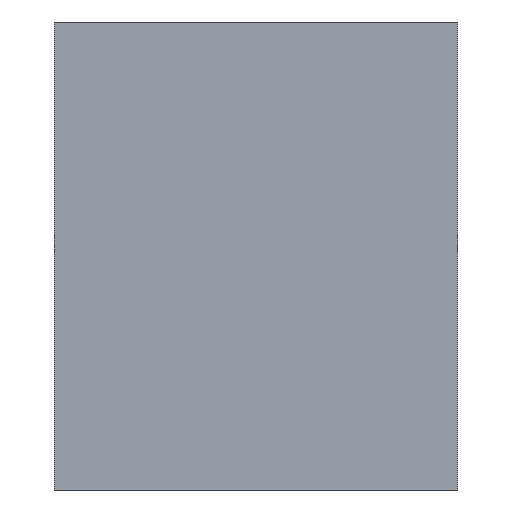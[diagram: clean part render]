
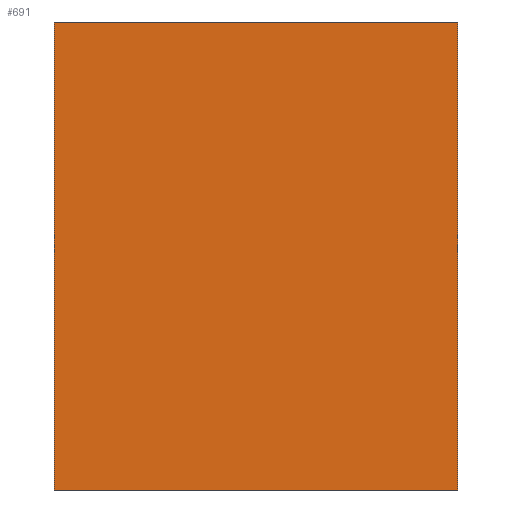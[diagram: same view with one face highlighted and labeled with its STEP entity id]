
A CAD part, left-side view. The second image highlights one B-rep face of the part: STEP entity #691.
In plain terms, the highlighted planar face has unit normal (-1, 0, 0).
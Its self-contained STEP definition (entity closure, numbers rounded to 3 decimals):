
#1 = CARTESIAN_POINT ( 'NONE',  ( -8.35, -2., 12.7 ) ) ;
#62 = LINE ( 'NONE', #622, #541 ) ;
#79 = ORIENTED_EDGE ( 'NONE', *, *, #587, .F. ) ;
#121 = CARTESIAN_POINT ( 'NONE',  ( -8.35, 8.95, 12.7 ) ) ;
#135 = VECTOR ( 'NONE', #433, 1000. ) ;
#158 = VECTOR ( 'NONE', #391, 1000. ) ;
#173 = CARTESIAN_POINT ( 'NONE',  ( -8.35, -2., 12.7 ) ) ;
#210 = LINE ( 'NONE', #1, #158 ) ;
#220 = CARTESIAN_POINT ( 'NONE',  ( -8.35, 8.95, 0. ) ) ;
#225 = PLANE ( 'NONE',  #270 ) ;
#232 = VECTOR ( 'NONE', #457, 1000. ) ;
#270 = AXIS2_PLACEMENT_3D ( 'NONE', #617, #517, #453 ) ;
#282 = EDGE_CURVE ( 'NONE', #347, #616, #285, .T. ) ;
#285 = LINE ( 'NONE', #345, #232 ) ;
#287 = FACE_OUTER_BOUND ( 'NONE', #636, .T. ) ;
#323 = ORIENTED_EDGE ( 'NONE', *, *, #574, .F. ) ;
#345 = CARTESIAN_POINT ( 'NONE',  ( -8.35, 8.95, 12.7 ) ) ;
#347 = VERTEX_POINT ( 'NONE', #121 ) ;
#370 = VERTEX_POINT ( 'NONE', #623 ) ;
#380 = VERTEX_POINT ( 'NONE', #173 ) ;
#391 = DIRECTION ( 'NONE',  ( 0., 0., -1. ) ) ;
#433 = DIRECTION ( 'NONE',  ( 0., -1., 0. ) ) ;
#445 = LINE ( 'NONE', #667, #135 ) ;
#453 = DIRECTION ( 'NONE',  ( 0., 0., -1. ) ) ;
#457 = DIRECTION ( 'NONE',  ( 0., 0., -1. ) ) ;
#517 = DIRECTION ( 'NONE',  ( 1., 0., 0. ) ) ;
#541 = VECTOR ( 'NONE', #677, 1000. ) ;
#574 = EDGE_CURVE ( 'NONE', #347, #380, #445, .T. ) ;
#587 = EDGE_CURVE ( 'NONE', #380, #370, #210, .T. ) ;
#607 = ORIENTED_EDGE ( 'NONE', *, *, #682, .T. ) ;
#616 = VERTEX_POINT ( 'NONE', #220 ) ;
#617 = CARTESIAN_POINT ( 'NONE',  ( -8.35, 0., 12.7 ) ) ;
#622 = CARTESIAN_POINT ( 'NONE',  ( -8.35, 0., 0. ) ) ;
#623 = CARTESIAN_POINT ( 'NONE',  ( -8.35, -2., 0. ) ) ;
#636 = EDGE_LOOP ( 'NONE', ( #607, #79, #323, #708 ) ) ;
#667 = CARTESIAN_POINT ( 'NONE',  ( -8.35, 0., 12.7 ) ) ;
#677 = DIRECTION ( 'NONE',  ( 0., -1., 0. ) ) ;
#682 = EDGE_CURVE ( 'NONE', #616, #370, #62, .T. ) ;
#691 = ADVANCED_FACE ( 'NONE', ( #287 ), #225, .F. ) ;
#708 = ORIENTED_EDGE ( 'NONE', *, *, #282, .T. ) ;
